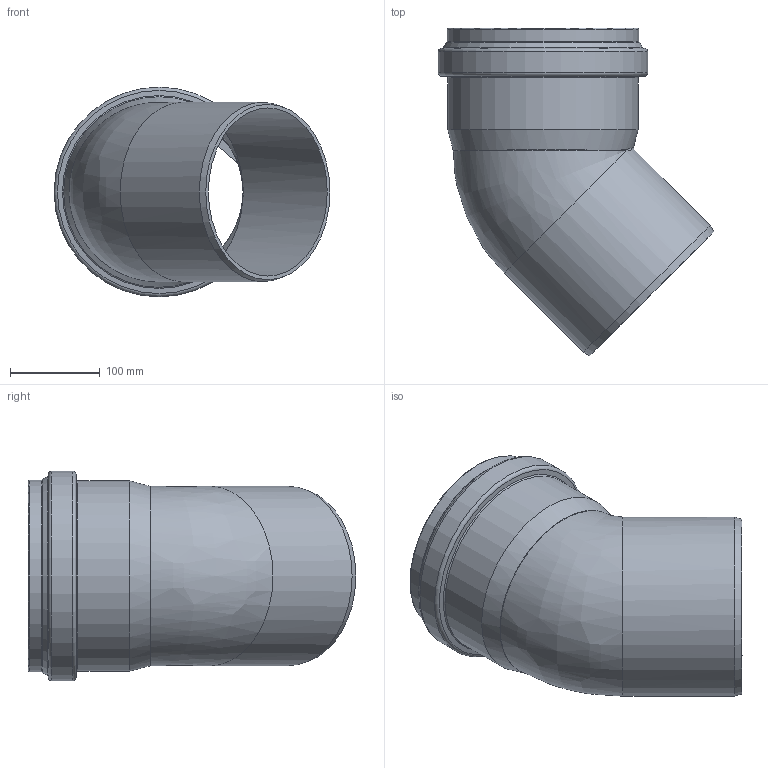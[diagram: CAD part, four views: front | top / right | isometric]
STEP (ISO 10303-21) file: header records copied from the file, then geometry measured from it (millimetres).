
FILE_DESCRIPTION(/* description */ (''),/* implementation_level */ '2;1');
FILE_NAME(/* name */ '771620z.stp',/* time_stamp */ '2024-02-13T09:35:00+01:00',/* author */ ('corinna'),/* organization */ (''),/* preprocessor_version */ 'ST-DEVELOPER v20',/* originating_system */ 'Autodesk Inventor 2024',/* authorisation */ '');
FILE_SCHEMA (('AUTOMOTIVE_DESIGN { 1 0 10303 214 3 1 1 }'));
Length unit declared in the file: millimetre
Products named in the file (1): 771620z
Bounding box: 307.98 x 365.88 x 234.2 mm (x, y, z)
Volume: 1388287.2 mm3; surface area: 458952.8 mm2
Topology: 1 solids, 1 shells, 43 faces, 116 edges, 76 vertices
Faces by surface type: torus 15, cone 11, cylinder 10, plane 4, bspline 3
Full cylindrical faces by diameter (mm): 187.7 x2, 200.3 x1, 201.5 x1, 201.8 x2, 212.7 x1, 213.6 x1, 223 x1, 234.2 x1
Entity records: 2026 total; most frequent: CARTESIAN_POINT 839, DIRECTION 275, ORIENTED_EDGE 232, AXIS2_PLACEMENT_3D 127, EDGE_CURVE 116, CIRCLE 85, VERTEX_POINT 76, EDGE_LOOP 46
